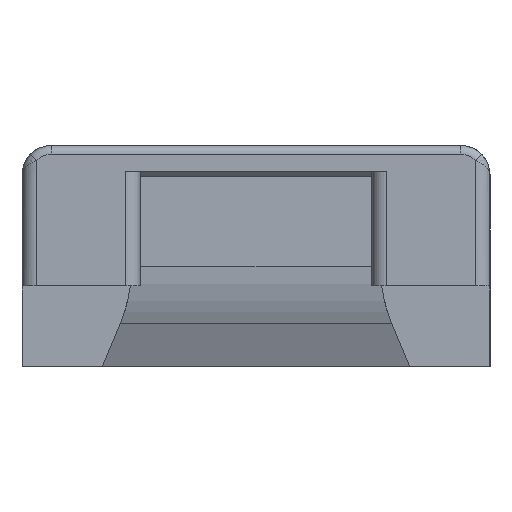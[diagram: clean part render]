
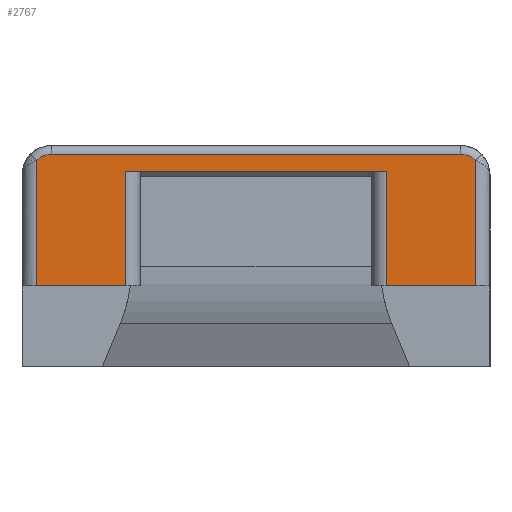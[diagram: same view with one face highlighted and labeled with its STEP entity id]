
A CAD part, left-side view. The second image highlights one B-rep face of the part: STEP entity #2767.
In plain terms, the highlighted planar face has unit normal (-1, 0, 0).
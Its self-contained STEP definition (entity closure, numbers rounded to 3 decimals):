
#98 = CARTESIAN_POINT ( 'NONE',  ( -49.72, 8.91, -91.883 ) ) ;
#100 = VERTEX_POINT ( 'NONE', #752 ) ;
#116 = VECTOR ( 'NONE', #2553, 1000. ) ;
#117 = CARTESIAN_POINT ( 'NONE',  ( -49.72, 15., -91.883 ) ) ;
#126 = DIRECTION ( 'NONE',  ( -1., 0., 0. ) ) ;
#171 = EDGE_CURVE ( 'NONE', #3726, #2292, #3886, .T. ) ;
#188 = VECTOR ( 'NONE', #4913, 1000. ) ;
#202 = CARTESIAN_POINT ( 'NONE',  ( -49.72, -16., -7.5 ) ) ;
#404 = LINE ( 'NONE', #4556, #2291 ) ;
#529 = ORIENTED_EDGE ( 'NONE', *, *, #1862, .T. ) ;
#728 = EDGE_CURVE ( 'NONE', #1019, #3726, #2516, .T. ) ;
#733 = CARTESIAN_POINT ( 'NONE',  ( -49.72, 14., 0.1 ) ) ;
#747 = CARTESIAN_POINT ( 'NONE',  ( -49.72, -14., 1.5 ) ) ;
#752 = CARTESIAN_POINT ( 'NONE',  ( -49.72, -15., -7.5 ) ) ;
#833 = EDGE_CURVE ( 'NONE', #100, #3423, #4049, .T. ) ;
#957 = VERTEX_POINT ( 'NONE', #747 ) ;
#973 = DIRECTION ( 'NONE',  ( 0., 0., -1. ) ) ;
#1019 = VERTEX_POINT ( 'NONE', #1222 ) ;
#1044 = EDGE_LOOP ( 'NONE', ( #4368, #2454, #3777, #1536, #2730, #2635, #529, #4322, #2477, #3823 ) ) ;
#1067 = DIRECTION ( 'NONE',  ( 0., 0., -1. ) ) ;
#1088 = VECTOR ( 'NONE', #2900, 1000. ) ;
#1222 = CARTESIAN_POINT ( 'NONE',  ( -49.72, 14., 1.5 ) ) ;
#1536 = ORIENTED_EDGE ( 'NONE', *, *, #2645, .F. ) ;
#1557 = CARTESIAN_POINT ( 'NONE',  ( -49.72, 8.91, -7.5 ) ) ;
#1622 = VECTOR ( 'NONE', #2752, 1000. ) ;
#1640 = AXIS2_PLACEMENT_3D ( 'NONE', #733, #126, #3102 ) ;
#1688 = CARTESIAN_POINT ( 'NONE',  ( -49.72, -16., 1.5 ) ) ;
#1727 = AXIS2_PLACEMENT_3D ( 'NONE', #2023, #2094, #1999 ) ;
#1799 = CIRCLE ( 'NONE', #3390, 1.4 ) ;
#1844 = EDGE_CURVE ( 'NONE', #957, #1019, #3958, .T. ) ;
#1862 = EDGE_CURVE ( 'NONE', #2689, #3423, #2851, .T. ) ;
#1868 = LINE ( 'NONE', #3384, #188 ) ;
#1970 = CARTESIAN_POINT ( 'NONE',  ( -49.72, 15., 1.08 ) ) ;
#1999 = DIRECTION ( 'NONE',  ( 0., 0., 1. ) ) ;
#2007 = EDGE_CURVE ( 'NONE', #3192, #957, #1799, .T. ) ;
#2023 = CARTESIAN_POINT ( 'NONE',  ( -49.72, -16., -91.883 ) ) ;
#2094 = DIRECTION ( 'NONE',  ( -1., 0., 0. ) ) ;
#2105 = CARTESIAN_POINT ( 'NONE',  ( -49.72, -14., 0.1 ) ) ;
#2169 = CARTESIAN_POINT ( 'NONE',  ( -49.72, 8.91, 0.3 ) ) ;
#2208 = VERTEX_POINT ( 'NONE', #2169 ) ;
#2291 = VECTOR ( 'NONE', #3072, 1000. ) ;
#2292 = VERTEX_POINT ( 'NONE', #4646 ) ;
#2320 = CARTESIAN_POINT ( 'NONE',  ( -49.72, -8.91, -91.883 ) ) ;
#2364 = DIRECTION ( 'NONE',  ( 0., 1., 0. ) ) ;
#2381 = PLANE ( 'NONE',  #1727 ) ;
#2427 = VECTOR ( 'NONE', #1067, 1000. ) ;
#2454 = ORIENTED_EDGE ( 'NONE', *, *, #728, .T. ) ;
#2477 = ORIENTED_EDGE ( 'NONE', *, *, #3399, .T. ) ;
#2516 = CIRCLE ( 'NONE', #1640, 1.4 ) ;
#2553 = DIRECTION ( 'NONE',  ( 0., 1., 0. ) ) ;
#2635 = ORIENTED_EDGE ( 'NONE', *, *, #4727, .F. ) ;
#2645 = EDGE_CURVE ( 'NONE', #3088, #2292, #3112, .T. ) ;
#2689 = VERTEX_POINT ( 'NONE', #4530 ) ;
#2730 = ORIENTED_EDGE ( 'NONE', *, *, #4469, .T. ) ;
#2752 = DIRECTION ( 'NONE',  ( 0., 0., 1. ) ) ;
#2767 = ADVANCED_FACE ( 'NONE', ( #2850 ), #2381, .T. ) ;
#2850 = FACE_OUTER_BOUND ( 'NONE', #1044, .T. ) ;
#2851 = LINE ( 'NONE', #2320, #2427 ) ;
#2859 = DIRECTION ( 'NONE',  ( 0., 0., 1. ) ) ;
#2900 = DIRECTION ( 'NONE',  ( 0., 1., 0. ) ) ;
#3037 = CARTESIAN_POINT ( 'NONE',  ( -49.72, 8.51, -7.5 ) ) ;
#3072 = DIRECTION ( 'NONE',  ( 0., 0., 1. ) ) ;
#3088 = VERTEX_POINT ( 'NONE', #1557 ) ;
#3102 = DIRECTION ( 'NONE',  ( 0., 0., 1. ) ) ;
#3112 = LINE ( 'NONE', #3037, #4748 ) ;
#3192 = VERTEX_POINT ( 'NONE', #3194 ) ;
#3194 = CARTESIAN_POINT ( 'NONE',  ( -49.72, -15., 1.08 ) ) ;
#3239 = CARTESIAN_POINT ( 'NONE',  ( -49.72, -8.91, -7.5 ) ) ;
#3384 = CARTESIAN_POINT ( 'NONE',  ( -49.72, -8.51, 0.3 ) ) ;
#3390 = AXIS2_PLACEMENT_3D ( 'NONE', #2105, #3617, #2859 ) ;
#3399 = EDGE_CURVE ( 'NONE', #100, #3192, #404, .T. ) ;
#3423 = VERTEX_POINT ( 'NONE', #3239 ) ;
#3617 = DIRECTION ( 'NONE',  ( -1., 0., 0. ) ) ;
#3726 = VERTEX_POINT ( 'NONE', #1970 ) ;
#3777 = ORIENTED_EDGE ( 'NONE', *, *, #171, .T. ) ;
#3823 = ORIENTED_EDGE ( 'NONE', *, *, #2007, .T. ) ;
#3886 = LINE ( 'NONE', #117, #4479 ) ;
#3958 = LINE ( 'NONE', #1688, #1088 ) ;
#4049 = LINE ( 'NONE', #202, #116 ) ;
#4291 = LINE ( 'NONE', #98, #1622 ) ;
#4322 = ORIENTED_EDGE ( 'NONE', *, *, #833, .F. ) ;
#4368 = ORIENTED_EDGE ( 'NONE', *, *, #1844, .T. ) ;
#4469 = EDGE_CURVE ( 'NONE', #3088, #2208, #4291, .T. ) ;
#4479 = VECTOR ( 'NONE', #973, 1000. ) ;
#4530 = CARTESIAN_POINT ( 'NONE',  ( -49.72, -8.91, 0.3 ) ) ;
#4556 = CARTESIAN_POINT ( 'NONE',  ( -49.72, -15., -91.883 ) ) ;
#4646 = CARTESIAN_POINT ( 'NONE',  ( -49.72, 15., -7.5 ) ) ;
#4727 = EDGE_CURVE ( 'NONE', #2689, #2208, #1868, .T. ) ;
#4748 = VECTOR ( 'NONE', #2364, 1000. ) ;
#4913 = DIRECTION ( 'NONE',  ( 0., 1., 0. ) ) ;
